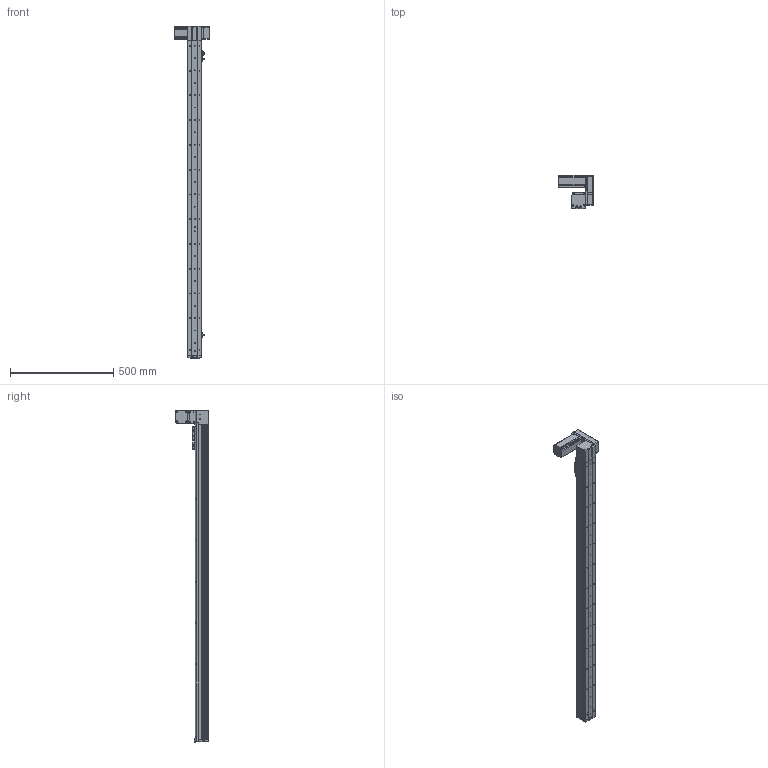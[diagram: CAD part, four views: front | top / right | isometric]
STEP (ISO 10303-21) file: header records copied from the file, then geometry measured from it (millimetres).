
FILE_DESCRIPTION (( 'STEP AP214' ), '1' );
FILE_NAME ('KSD68BS-S1350-MLU-CR.STEP', '2019-11-07T08:10:24', ( '微软用户' ), ( '微软中国' ), 'SwSTEP 2.0', 'SolidWorks 2014', '' );
FILE_SCHEMA (( 'AUTOMOTIVE_DESIGN' ));
Length unit declared in the file: millimetre
Products named in the file (14): KSD68BS 1350行程底板全封闭; KSD68BS 1350行程盖板全封闭; KSD68BS-S1350-MLU-CR; 68遵裔啣揤啣1; 68宽单导轨全封闭丝杆传动安装板1防护罩; KSD68BS 1350行程侧板全封闭; 68宽单导轨全封闭同步带端板; 68单导轨全封闭同步带电机座左; 68单导轨全封闭同步带安装板; 悵誘欶奻狟殏; 68宽马达安装板连板上折同步带; 感应片68宽全封闭; U倰嫖萇EEㄜSX672; 台达ECMA－C20604AS伺服电机（400W)
Assembly tree (17 placements, depth 2):
  KSD68BS-S1350-MLU-CR
    KSD68BS 1350行程底板全封闭
    台达ECMA－C20604AS伺服电机（400W)
    U倰嫖萇EEㄜSX672  x3
    感应片68宽全封闭
    68宽马达安装板连板上折同步带
    悵誘欶奻狟殏
    68单导轨全封闭同步带安装板
    68单导轨全封闭同步带电机座左
    68宽单导轨全封闭同步带端板
    KSD68BS 1350行程侧板全封闭  x2
    68宽单导轨全封闭丝杆传动安装板1防护罩
    68遵裔啣揤啣1  x2
    KSD68BS 1350行程盖板全封闭
Bounding box: 167.2 x 159.5 x 1608.1 mm (x, y, z)
Volume: 3007739.1 mm3; surface area: 1194640.3 mm2
Topology: 18 solids, 18 shells, 1573 faces, 4507 edges, 2876 vertices
Faces by surface type: cylinder 764, plane 629, cone 180
Entity records: 50791 total; most frequent: CARTESIAN_POINT 8819, DIRECTION 7570, ORIENTED_EDGE 7242, EDGE_CURVE 3621, AXIS2_PLACEMENT_3D 2751, VERTEX_POINT 2374, VECTOR 2068, LINE 2068
